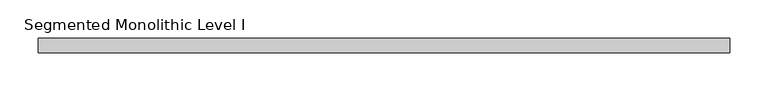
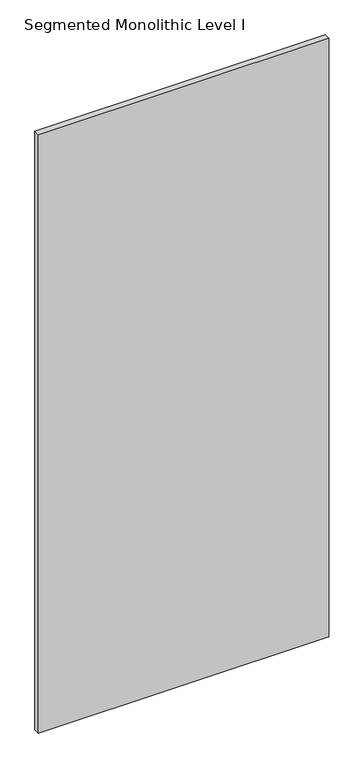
"""IFC4 building model written with IfcOpenShell, lengths in millimetres: proxy geometry, Panel-Fascia-Teknion-Altos-Standard : Segmented Monolithic Level I."""

from ifc_helpers import new_model, si_unit, frame, origin, place, context, project, spatial, polyline, outline, extrude, source, transform, mapped, element, save


def segmented_monolithic_level_i_f0d80afd(model_context):
    return source(origin(), model_context, "Body", "SweptSolid", [
        extrude(outline(polyline([(454.025, -9.525), (-454.025, -9.525), (-454.025, 9.525), (454.025, 9.525), (454.025, -9.525)])), frame((0.0, 0.0, 3.175), z_axis=(0.0, 0.0, 1.0), x_axis=(1.0, 0.0, 0.0)), (0.0, 0.0, 1.0), 1979.168),
    ])


if __name__ == "__main__":
    model = new_model("IFC4")
    model_context = context("Model", 3, world=origin())
    ifc_project = project(units=[si_unit("LENGTHUNIT", "METRE", prefix="MILLI")], contexts=[model_context])
    site = spatial("IfcSite", under=ifc_project)
    building = spatial("IfcBuilding", under=site)
    placement = place(None, origin())
    segmented_monolithic_level_i_shape = segmented_monolithic_level_i_f0d80afd(model_context)
    element("IfcBuildingElementProxy", 1, Name="Panel-Fascia-Teknion-Altos-Standard : Segmented Monolithic Level I", ObjectType="Panel-Fascia-Teknion-Altos-Standard : Segmented Monolithic Level I", at=placement, inside=building, context=model_context, shape_type="MappedRepresentation", body=[
        mapped(segmented_monolithic_level_i_shape, transform((0.0, 0.0, 0.0), x_axis=(1.0, 0.0, 0.0), y_axis=(0.0, 1.0, 0.0), z_axis=(0.0, 0.0, 1.0))),
    ])
    save(model, "model.ifc")
